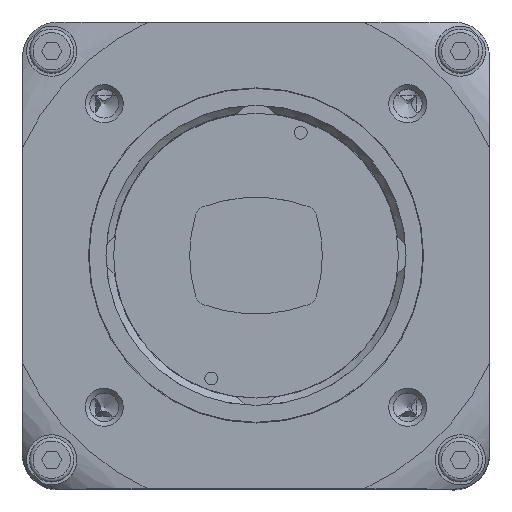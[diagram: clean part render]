
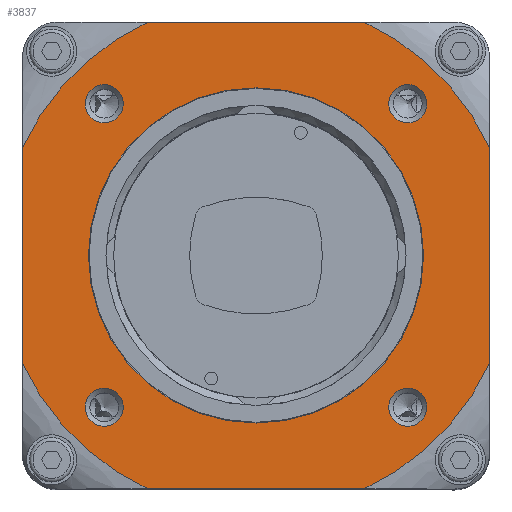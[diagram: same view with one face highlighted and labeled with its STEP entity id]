
A CAD part, top view. The second image highlights one B-rep face of the part: STEP entity #3837.
In plain terms, the highlighted planar face has unit normal (0, 0, 1).
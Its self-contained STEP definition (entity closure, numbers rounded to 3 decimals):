
#3837 = ADVANCED_FACE( '', ( #8390, #8391, #8392, #8393, #8394, #8395 ), #8396, .F. );
#8390 = FACE_BOUND( '', #14892, .T. );
#8391 = FACE_BOUND( '', #14893, .T. );
#8392 = FACE_BOUND( '', #14894, .T. );
#8393 = FACE_BOUND( '', #14895, .T. );
#8394 = FACE_BOUND( '', #14896, .T. );
#8395 = FACE_OUTER_BOUND( '', #14897, .T. );
#8396 = PLANE( '', #14898 );
#14892 = EDGE_LOOP( '', ( #25175 ) );
#14893 = EDGE_LOOP( '', ( #25176 ) );
#14894 = EDGE_LOOP( '', ( #25177 ) );
#14895 = EDGE_LOOP( '', ( #25178 ) );
#14896 = EDGE_LOOP( '', ( #25179 ) );
#14897 = EDGE_LOOP( '', ( #25180, #25181, #25182, #25183, #25184, #25185, #25186, #25187 ) );
#14898 = AXIS2_PLACEMENT_3D( '', #25188, #25189, #25190 );
#25175 = ORIENTED_EDGE( '', *, *, #30908, .T. );
#25176 = ORIENTED_EDGE( '', *, *, #30431, .T. );
#25177 = ORIENTED_EDGE( '', *, *, #32092, .T. );
#25178 = ORIENTED_EDGE( '', *, *, #31739, .T. );
#25179 = ORIENTED_EDGE( '', *, *, #32069, .T. );
#25180 = ORIENTED_EDGE( '', *, *, #32424, .F. );
#25181 = ORIENTED_EDGE( '', *, *, #29946, .T. );
#25182 = ORIENTED_EDGE( '', *, *, #32425, .F. );
#25183 = ORIENTED_EDGE( '', *, *, #32313, .T. );
#25184 = ORIENTED_EDGE( '', *, *, #31176, .F. );
#25185 = ORIENTED_EDGE( '', *, *, #32426, .T. );
#25186 = ORIENTED_EDGE( '', *, *, #30995, .F. );
#25187 = ORIENTED_EDGE( '', *, *, #30841, .T. );
#25188 = CARTESIAN_POINT( '', ( 0., 0., 12.3 ) );
#25189 = DIRECTION( '', ( 0., 0., -1. ) );
#25190 = DIRECTION( '', ( -1., 0., 0. ) );
#29946 = EDGE_CURVE( '', #35136, #35137, #35138, .T. );
#30431 = EDGE_CURVE( '', #35904, #35904, #35905, .T. );
#30841 = EDGE_CURVE( '', #36598, #36599, #36600, .T. );
#30908 = EDGE_CURVE( '', #36701, #36701, #36702, .T. );
#30995 = EDGE_CURVE( '', #36598, #36825, #36826, .T. );
#31176 = EDGE_CURVE( '', #37092, #37093, #37094, .T. );
#31739 = EDGE_CURVE( '', #37886, #37886, #37887, .T. );
#32069 = EDGE_CURVE( '', #38324, #38324, #38325, .T. );
#32092 = EDGE_CURVE( '', #38352, #38352, #38353, .T. );
#32313 = EDGE_CURVE( '', #38645, #37093, #38646, .T. );
#32424 = EDGE_CURVE( '', #35136, #36599, #38778, .T. );
#32425 = EDGE_CURVE( '', #38645, #35137, #38779, .T. );
#32426 = EDGE_CURVE( '', #37092, #36825, #38780, .T. );
#35136 = VERTEX_POINT( '', #42730 );
#35137 = VERTEX_POINT( '', #42731 );
#35138 = CIRCLE( '', #42732, 22.031 );
#35904 = VERTEX_POINT( '', #44102 );
#35905 = CIRCLE( '', #44103, 1.63 );
#36598 = VERTEX_POINT( '', #45161 );
#36599 = VERTEX_POINT( '', #45162 );
#36600 = CIRCLE( '', #45163, 22.031 );
#36701 = VERTEX_POINT( '', #45347 );
#36702 = CIRCLE( '', #45348, 1.63 );
#36825 = VERTEX_POINT( '', #45547 );
#36826 = LINE( '', #45548, #45549 );
#37092 = VERTEX_POINT( '', #46091 );
#37093 = VERTEX_POINT( '', #46092 );
#37094 = LINE( '', #46093, #46094 );
#37886 = VERTEX_POINT( '', #47575 );
#37887 = CIRCLE( '', #47576, 1.63 );
#38324 = VERTEX_POINT( '', #48323 );
#38325 = CIRCLE( '', #48324, 14.35 );
#38352 = VERTEX_POINT( '', #48361 );
#38353 = CIRCLE( '', #48362, 1.63 );
#38645 = VERTEX_POINT( '', #48864 );
#38646 = CIRCLE( '', #48865, 22.031 );
#38778 = LINE( '', #49099, #49100 );
#38779 = LINE( '', #49101, #49102 );
#38780 = CIRCLE( '', #49103, 22.031 );
#42730 = CARTESIAN_POINT( '', ( -9.238, 20., 12.3 ) );
#42731 = CARTESIAN_POINT( '', ( -20., 9.238, 12.3 ) );
#42732 = AXIS2_PLACEMENT_3D( '', #51998, #51999, #52000 );
#44102 = CARTESIAN_POINT( '', ( -14.63, -13., 12.3 ) );
#44103 = AXIS2_PLACEMENT_3D( '', #52607, #52608, #52609 );
#45161 = CARTESIAN_POINT( '', ( 20., 9.238, 12.3 ) );
#45162 = CARTESIAN_POINT( '', ( 9.238, 20., 12.3 ) );
#45163 = AXIS2_PLACEMENT_3D( '', #53275, #53276, #53277 );
#45347 = CARTESIAN_POINT( '', ( 11.371, -13., 12.3 ) );
#45348 = AXIS2_PLACEMENT_3D( '', #53352, #53353, #53354 );
#45547 = CARTESIAN_POINT( '', ( 20., -9.238, 12.3 ) );
#45548 = CARTESIAN_POINT( '', ( 20., 20., 12.3 ) );
#45549 = VECTOR( '', #53457, 1000. );
#46091 = CARTESIAN_POINT( '', ( 9.238, -20., 12.3 ) );
#46092 = CARTESIAN_POINT( '', ( -9.238, -20., 12.3 ) );
#46093 = CARTESIAN_POINT( '', ( 20., -20., 12.3 ) );
#46094 = VECTOR( '', #53666, 1000. );
#47575 = CARTESIAN_POINT( '', ( 11.371, 13., 12.3 ) );
#47576 = AXIS2_PLACEMENT_3D( '', #54266, #54267, #54268 );
#48323 = CARTESIAN_POINT( '', ( 14.35, 0., 12.3 ) );
#48324 = AXIS2_PLACEMENT_3D( '', #54634, #54635, #54636 );
#48361 = CARTESIAN_POINT( '', ( -14.63, 13., 12.3 ) );
#48362 = AXIS2_PLACEMENT_3D( '', #54653, #54654, #54655 );
#48864 = CARTESIAN_POINT( '', ( -20., -9.238, 12.3 ) );
#48865 = AXIS2_PLACEMENT_3D( '', #54898, #54899, #54900 );
#49099 = CARTESIAN_POINT( '', ( -20., 20., 12.3 ) );
#49100 = VECTOR( '', #54980, 1000. );
#49101 = CARTESIAN_POINT( '', ( -20., -20., 12.3 ) );
#49102 = VECTOR( '', #54981, 1000. );
#49103 = AXIS2_PLACEMENT_3D( '', #54982, #54983, #54984 );
#51998 = CARTESIAN_POINT( '', ( 0., 0., 12.3 ) );
#51999 = DIRECTION( '', ( 0., 0., 1. ) );
#52000 = DIRECTION( '', ( 1., 0., 0. ) );
#52607 = CARTESIAN_POINT( '', ( -13., -13., 12.3 ) );
#52608 = DIRECTION( '', ( 0., 0., -1. ) );
#52609 = DIRECTION( '', ( -1., 0., 0. ) );
#53275 = CARTESIAN_POINT( '', ( 0., 0., 12.3 ) );
#53276 = DIRECTION( '', ( 0., 0., 1. ) );
#53277 = DIRECTION( '', ( 1., 0., 0. ) );
#53352 = CARTESIAN_POINT( '', ( 13., -13., 12.3 ) );
#53353 = DIRECTION( '', ( 0., 0., -1. ) );
#53354 = DIRECTION( '', ( -1., 0., 0. ) );
#53457 = DIRECTION( '', ( 0., -1., 0. ) );
#53666 = DIRECTION( '', ( -1., 0., 0. ) );
#54266 = CARTESIAN_POINT( '', ( 13., 13., 12.3 ) );
#54267 = DIRECTION( '', ( 0., 0., -1. ) );
#54268 = DIRECTION( '', ( -1., 0., 0. ) );
#54634 = CARTESIAN_POINT( '', ( 0., 0., 12.3 ) );
#54635 = DIRECTION( '', ( 0., 0., -1. ) );
#54636 = DIRECTION( '', ( 1., 0., 0. ) );
#54653 = CARTESIAN_POINT( '', ( -13., 13., 12.3 ) );
#54654 = DIRECTION( '', ( 0., 0., -1. ) );
#54655 = DIRECTION( '', ( -1., 0., 0. ) );
#54898 = CARTESIAN_POINT( '', ( 0., 0., 12.3 ) );
#54899 = DIRECTION( '', ( 0., 0., 1. ) );
#54900 = DIRECTION( '', ( 1., 0., 0. ) );
#54980 = DIRECTION( '', ( 1., 0., 0. ) );
#54981 = DIRECTION( '', ( 0., 1., 0. ) );
#54982 = CARTESIAN_POINT( '', ( 0., 0., 12.3 ) );
#54983 = DIRECTION( '', ( 0., 0., 1. ) );
#54984 = DIRECTION( '', ( 1., 0., 0. ) );
